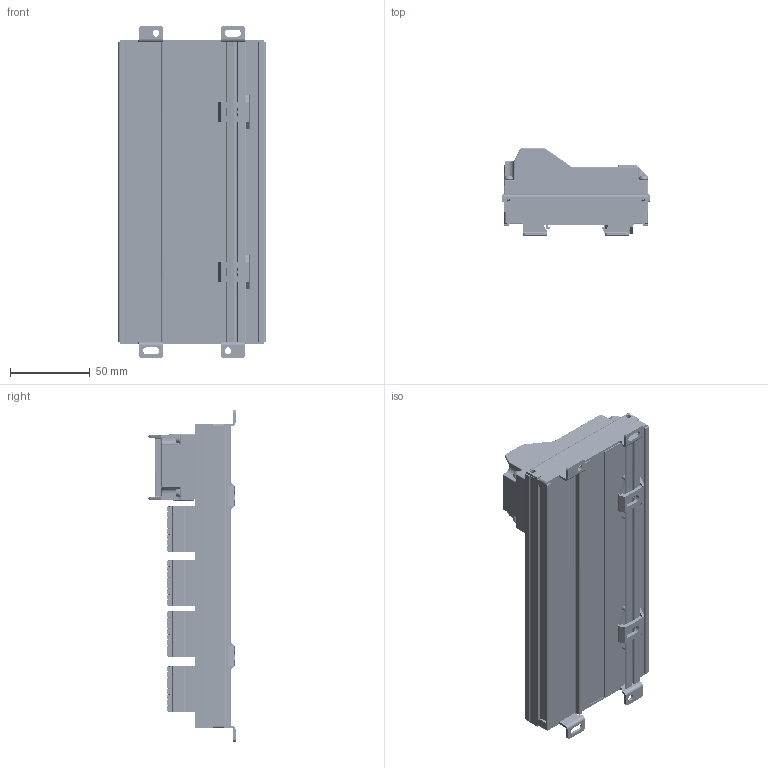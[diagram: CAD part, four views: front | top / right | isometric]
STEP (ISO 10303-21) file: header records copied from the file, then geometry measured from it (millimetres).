
FILE_DESCRIPTION (( 'STEP AP203' ), '1' );
FILE_NAME ('009B72.STEP', '2024-05-30T04:54:27', ( 'L' ), ( '' ), 'SwSTEP 2.0', 'SolidWorks 2019', '' );
FILE_SCHEMA (( 'CONFIG_CONTROL_DESIGN' ));
Products named in the file (1): 009B72
Bounding box: 92 x 54.4 x 207.5 mm (x, y, z)
Volume: 461403.8 mm3; surface area: 139564.8 mm2
Topology: 1 solids, 79 shells, 16707 faces, 45408 edges, 29522 vertices
Faces by surface type: plane 10401, cylinder 3837, bspline 1518, cone 891, torus 46, sphere 14
Entity records: 623407 total; most frequent: CARTESIAN_POINT 226486, ORIENTED_EDGE 90758, DIRECTION 69659, EDGE_CURVE 45379, LINE 30339, VECTOR 30339, VERTEX_POINT 29517, AXIS2_PLACEMENT_3D 19660
